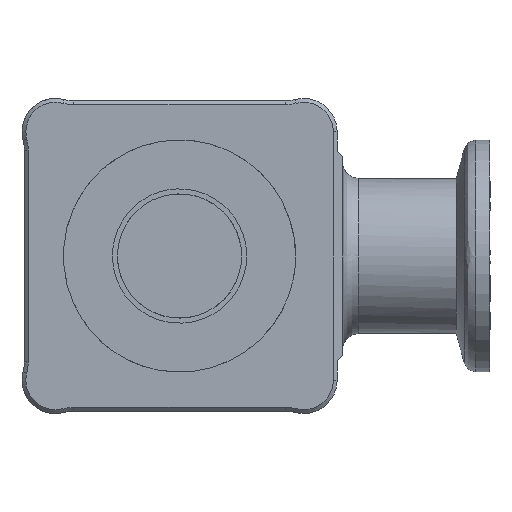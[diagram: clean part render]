
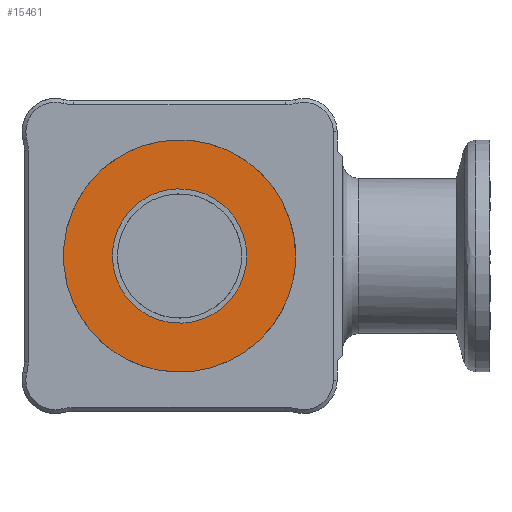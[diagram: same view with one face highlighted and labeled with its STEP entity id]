
A CAD part, front view. The second image highlights one B-rep face of the part: STEP entity #15461.
In plain terms, the highlighted free-form (B-spline) face has degree [1, 1] with [2, 2] control points.
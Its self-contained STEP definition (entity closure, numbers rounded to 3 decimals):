
#15403=CARTESIAN_POINT('V57',(14.956,-3.,
   0.0));
#15404=VERTEX_POINT('V57',#15403);
#15412=CARTESIAN_POINT('E77',(14.956,-3.,
   0.0));
#15413=CARTESIAN_POINT('E77',(14.956,-3.,
   25.905));
#15414=CARTESIAN_POINT('E77',(-7.478,-3.,
   12.952));
#15415=CARTESIAN_POINT('E77',(-29.912,-3.,
   0.));
#15416=CARTESIAN_POINT('E77',(-7.478,-3.,
   -12.952));
#15417=CARTESIAN_POINT('E77',(14.956,-3.,
   -25.905));
#15418=CARTESIAN_POINT('E77',(14.956,-3.,
   0.0));
#15426=(BOUNDED_CURVE()B_SPLINE_CURVE(2,(#15412,#15413,#15414,
   #15415,#15416,#15417,#15418),.CIRCULAR_ARC.,.T.,.U.)
   B_SPLINE_CURVE_WITH_KNOTS((3,2,2,3),(0.0,0.333,
   0.667,1.0),.UNSPECIFIED.)CURVE()
   GEOMETRIC_REPRESENTATION_ITEM()RATIONAL_B_SPLINE_CURVE((1.0,
   0.5,1.0,0.5,1.0,0.5,1.0)
   )REPRESENTATION_ITEM('E77'));
#15427=EDGE_CURVE('E77',#15404,#15404,#15426,.T.);
#15432=CARTESIAN_POINT('F35',(15.956,-3.0,
   -15.956));
#15433=CARTESIAN_POINT('F35',(15.956,-3.0,
   15.956));
#15434=CARTESIAN_POINT('F35',(-21.807,-3.0,
   -15.956));
#15435=CARTESIAN_POINT('F35',(-21.807,-3.0,
   15.956));
#15436=B_SPLINE_SURFACE_WITH_KNOTS('F35',1,1,((#15432,#15434),(
   #15433,#15435)),.PLANE_SURF.,.F.,.F.,.U.,(2,2),(2,2),(
   0.126,0.874),(0.599,
   1.485),.UNSPECIFIED.);
#15437=ORIENTED_EDGE('F31',*,*,#15427,.F.);
#15438=EDGE_LOOP('F35',(#15437));
#15439=FACE_OUTER_BOUND('F35',#15438,.F.);
#15440=CARTESIAN_POINT('V60',(8.65,-3.,
   0.0));
#15441=VERTEX_POINT('V60',#15440);
#15442=CARTESIAN_POINT('E82',(8.65,-3.,
   0.0));
#15443=CARTESIAN_POINT('E82',(8.65,-3.,
   -14.982));
#15444=CARTESIAN_POINT('E82',(-4.325,-3.,
   -7.491));
#15445=CARTESIAN_POINT('E82',(-17.3,-3.,
   0.));
#15446=CARTESIAN_POINT('E82',(-4.325,-3.,
   7.491));
#15447=CARTESIAN_POINT('E82',(8.65,-3.,
   14.982));
#15448=CARTESIAN_POINT('E82',(8.65,-3.,
   0.0));
#15456=(BOUNDED_CURVE()B_SPLINE_CURVE(2,(#15442,#15443,#15444,
   #15445,#15446,#15447,#15448),.CIRCULAR_ARC.,.T.,.U.)
   B_SPLINE_CURVE_WITH_KNOTS((3,2,2,3),(0.0,0.333,
   0.667,1.0),.UNSPECIFIED.)CURVE()
   GEOMETRIC_REPRESENTATION_ITEM()RATIONAL_B_SPLINE_CURVE((1.0,
   0.5,1.0,0.5,1.0,0.5,1.0)
   )REPRESENTATION_ITEM('E82'));
#15457=EDGE_CURVE('E82',#15441,#15441,#15456,.T.);
#15458=ORIENTED_EDGE('E82',*,*,#15457,.F.);
#15459=EDGE_LOOP('F35',(#15458));
#15460=FACE_BOUND('F35',#15459,.F.);
#15461=ADVANCED_FACE('F35',(#15439,#15460),#15436,.T.);
